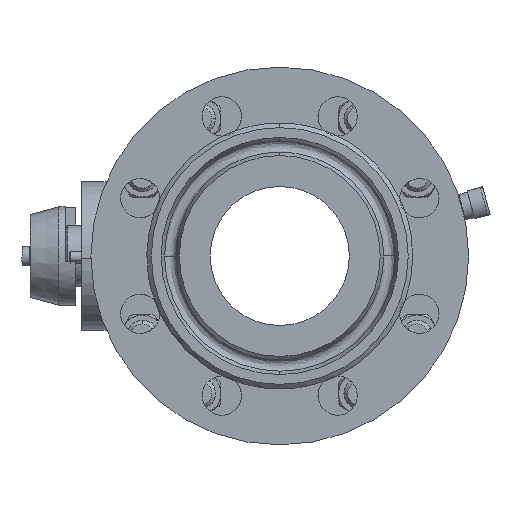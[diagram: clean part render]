
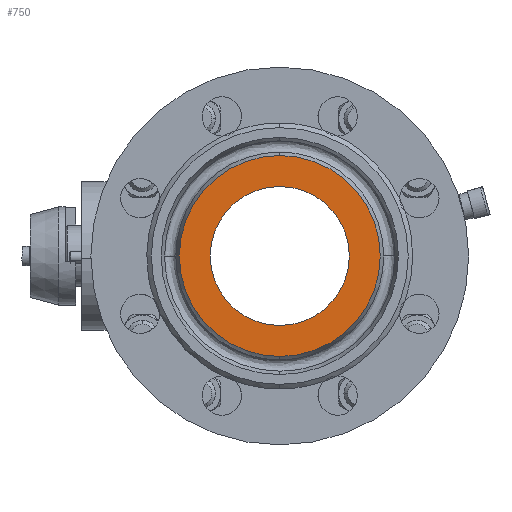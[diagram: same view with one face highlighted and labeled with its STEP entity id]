
A CAD part, left-side view. The second image highlights one B-rep face of the part: STEP entity #750.
In plain terms, the highlighted planar face has unit normal (-1, 0, 0).
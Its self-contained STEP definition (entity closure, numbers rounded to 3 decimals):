
#750=ADVANCED_FACE('',(#2255,#2257),#2259,.T.);
#2255=FACE_BOUND('',#2256,.T.);
#2256=EDGE_LOOP('',(#11440,#11441));
#2257=FACE_OUTER_BOUND('',#2258,.T.);
#2258=EDGE_LOOP('',(#11442,#11443));
#2259=PLANE('',#2260);
#2260=AXIS2_PLACEMENT_3D('',#2261,#2262,#2263);
#2261=CARTESIAN_POINT('',(-203.,0.,0.));
#2262=DIRECTION('',(-1.,-0.,0.));
#2263=DIRECTION('',(0.,0.,-1.));
#11440=ORIENTED_EDGE('',*,*,#17245,.F.);
#11441=ORIENTED_EDGE('',*,*,#17184,.F.);
#11442=ORIENTED_EDGE('',*,*,#17246,.T.);
#11443=ORIENTED_EDGE('',*,*,#17201,.T.);
#17184=EDGE_CURVE('',#20195,#20197,#20198,.T.);
#17201=EDGE_CURVE('',#20227,#20228,#20229,.T.);
#17245=EDGE_CURVE('',#20197,#20195,#20288,.T.);
#17246=EDGE_CURVE('',#20228,#20227,#20289,.T.);
#20195=VERTEX_POINT('',#25297);
#20197=VERTEX_POINT('',#25301);
#20198=CIRCLE('',#25302,46.);
#20227=VERTEX_POINT('',#25374);
#20228=VERTEX_POINT('',#25375);
#20229=CIRCLE('',#25376,66.5);
#20288=CIRCLE('',#25739,46.);
#20289=CIRCLE('',#25743,66.5);
#25297=CARTESIAN_POINT('',(-203.,0.,46.));
#25301=CARTESIAN_POINT('',(-203.,0.,-46.));
#25302=AXIS2_PLACEMENT_3D('',#25303,#25304,#25305);
#25303=CARTESIAN_POINT('',(-203.,0.,0.));
#25304=DIRECTION('',(-1.,-0.,0.));
#25305=DIRECTION('',(0.,0.,1.));
#25374=CARTESIAN_POINT('',(-203.,0.,-66.5));
#25375=CARTESIAN_POINT('',(-203.,0.,66.5));
#25376=AXIS2_PLACEMENT_3D('',#25377,#25378,#25379);
#25377=CARTESIAN_POINT('',(-203.,0.,0.));
#25378=DIRECTION('',(-1.,-0.,0.));
#25379=DIRECTION('',(0.,0.,-1.));
#25739=AXIS2_PLACEMENT_3D('',#25740,#25741,#25742);
#25740=CARTESIAN_POINT('',(-203.,0.,0.));
#25741=DIRECTION('',(-1.,-0.,0.));
#25742=DIRECTION('',(0.,0.,-1.));
#25743=AXIS2_PLACEMENT_3D('',#25744,#25745,#25746);
#25744=CARTESIAN_POINT('',(-203.,0.,0.));
#25745=DIRECTION('',(-1.,-0.,0.));
#25746=DIRECTION('',(0.,0.,1.));
